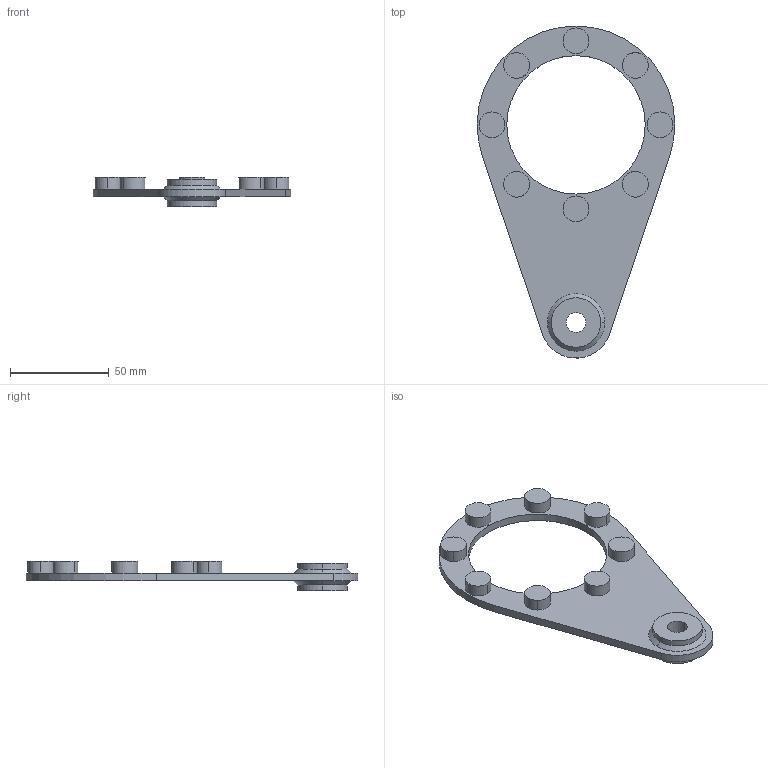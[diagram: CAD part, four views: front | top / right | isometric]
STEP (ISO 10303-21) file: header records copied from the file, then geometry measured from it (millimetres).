
FILE_DESCRIPTION(/* description */ (''),/* implementation_level */ '2;1');
FILE_NAME(/* name */ '6_BRAZZIO DI REAZIONE BA42',/* time_stamp */ '2025-10-22T11:41:30+02:00',/* author */ (''),/* organization */ (''),/* preprocessor_version */ 'ST-DEVELOPER v19.2',/* originating_system */ 'Rhino 8.23',/* authorisation */ '');
FILE_SCHEMA (('CONFIG_CONTROL_DESIGN'));
Length unit declared in the file: millimetre
Products named in the file (2): Document; A42-100U-905005
Bounding box: 99.98 x 167.94 x 15 mm (x, y, z)
Volume: 41471.9 mm3; surface area: 20908.4 mm2
Topology: 1 solids, 1 shells, 44 faces, 100 edges, 68 vertices
Faces by surface type: cylinder 26, plane 14, bspline 4
Entity records: 1604 total; most frequent: CARTESIAN_POINT 416, ORIENTED_EDGE 200, DIRECTION 176, AXIS2_PLACEMENT_3D 108, EDGE_CURVE 100, VERTEX_POINT 68, TRIMMED_CURVE 64, CIRCLE 64
